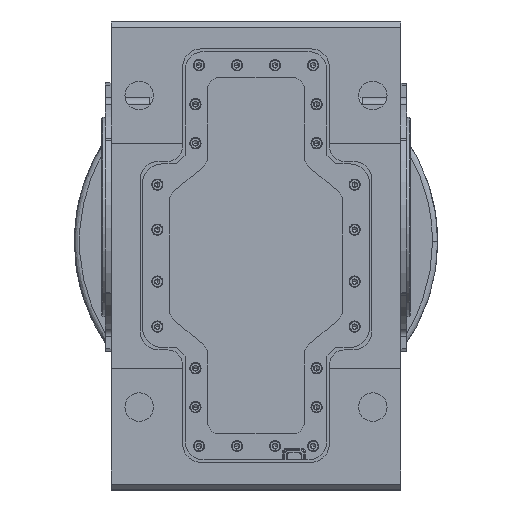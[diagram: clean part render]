
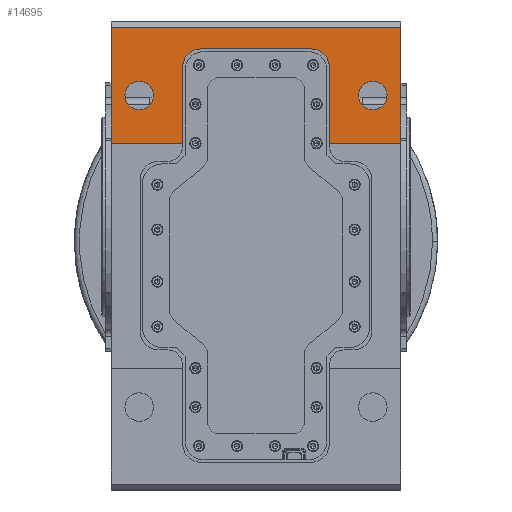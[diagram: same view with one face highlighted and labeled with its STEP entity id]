
A CAD part, top view. The second image highlights one B-rep face of the part: STEP entity #14695.
In plain terms, the highlighted planar face has unit normal (0, 0, 1).
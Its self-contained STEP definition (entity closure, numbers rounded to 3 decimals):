
#10022 = AXIS2_PLACEMENT_3D ( 'NONE', #82030, #81979, #81949 ) ;
#10215 = AXIS2_PLACEMENT_3D ( 'NONE', #117588, #117608, #117592 ) ;
#10988 = AXIS2_PLACEMENT_3D ( 'NONE', #44047, #44066, #44057 ) ;
#11014 = AXIS2_PLACEMENT_3D ( 'NONE', #44072, #44055, #44043 ) ;
#11018 = AXIS2_PLACEMENT_3D ( 'NONE', #44049, #44041, #44052 ) ;
#11148 = AXIS2_PLACEMENT_3D ( 'NONE', #43842, #43854, #43843 ) ;
#14695 = ADVANCED_FACE ( 'NONE', ( #142617, #142651, #142638 ), #36225, .T. ) ;
#33500 = EDGE_LOOP ( 'NONE', ( #56898, #56911, #56890, #56909, #56875, #56894, #56903, #56940, #56999, #56949 ) ) ;
#33522 = EDGE_LOOP ( 'NONE', ( #57001, #56960 ) ) ;
#33603 = EDGE_LOOP ( 'NONE', ( #56969, #56878 ) ) ;
#36173 = CARTESIAN_POINT ( 'NONE',  ( -167.5, 225., 200. ) ) ;
#36199 = DIRECTION ( 'NONE',  ( 0., 0., 1. ) ) ;
#36222 = DIRECTION ( 'NONE',  ( 0., -1., 0. ) ) ;
#36225 = PLANE ( 'NONE',  #56686 ) ;
#43842 = CARTESIAN_POINT ( 'NONE',  ( -63., 172., 200. ) ) ;
#43843 = DIRECTION ( 'NONE',  ( 0., -1., 0. ) ) ;
#43854 = DIRECTION ( 'NONE',  ( 0., 0., -1. ) ) ;
#43924 = CARTESIAN_POINT ( 'NONE',  ( -85., 225., 200. ) ) ;
#43933 = DIRECTION ( 'NONE',  ( 0., 1., 0. ) ) ;
#44013 = DIRECTION ( 'NONE',  ( 0., -1., 0. ) ) ;
#44016 = CARTESIAN_POINT ( 'NONE',  ( 85., 225., 200. ) ) ;
#44041 = DIRECTION ( 'NONE',  ( 0., 0., -1. ) ) ;
#44043 = DIRECTION ( 'NONE',  ( 0., -1., 0. ) ) ;
#44047 = CARTESIAN_POINT ( 'NONE',  ( -135., 140., 200. ) ) ;
#44049 = CARTESIAN_POINT ( 'NONE',  ( 135., 140., 200. ) ) ;
#44051 = CARTESIAN_POINT ( 'NONE',  ( -167.5, 194., 200. ) ) ;
#44052 = DIRECTION ( 'NONE',  ( 0., -1., 0. ) ) ;
#44055 = DIRECTION ( 'NONE',  ( 0., 0., -1. ) ) ;
#44057 = DIRECTION ( 'NONE',  ( 0., -1., 0. ) ) ;
#44058 = DIRECTION ( 'NONE',  ( 1., 0., 0. ) ) ;
#44066 = DIRECTION ( 'NONE',  ( 0., 0., -1. ) ) ;
#44072 = CARTESIAN_POINT ( 'NONE',  ( 63., 172., 200. ) ) ;
#45648 = VERTEX_POINT ( 'NONE', #95175 ) ;
#45750 = VERTEX_POINT ( 'NONE', #95312 ) ;
#45768 = VERTEX_POINT ( 'NONE', #95235 ) ;
#45781 = VERTEX_POINT ( 'NONE', #95240 ) ;
#52587 = CIRCLE ( 'NONE', #10022, 16.5 ) ;
#54261 = CIRCLE ( 'NONE', #10215, 16.5 ) ;
#56686 = AXIS2_PLACEMENT_3D ( 'NONE', #36173, #36199, #36222 ) ;
#56875 = ORIENTED_EDGE ( 'NONE', *, *, #60061, .T. ) ;
#56878 = ORIENTED_EDGE ( 'NONE', *, *, #60110, .T. ) ;
#56890 = ORIENTED_EDGE ( 'NONE', *, *, #127313, .T. ) ;
#56894 = ORIENTED_EDGE ( 'NONE', *, *, #60027, .T. ) ;
#56898 = ORIENTED_EDGE ( 'NONE', *, *, #127238, .F. ) ;
#56903 = ORIENTED_EDGE ( 'NONE', *, *, #60105, .T. ) ;
#56909 = ORIENTED_EDGE ( 'NONE', *, *, #126661, .T. ) ;
#56911 = ORIENTED_EDGE ( 'NONE', *, *, #127328, .T. ) ;
#56940 = ORIENTED_EDGE ( 'NONE', *, *, #60103, .T. ) ;
#56949 = ORIENTED_EDGE ( 'NONE', *, *, #127279, .T. ) ;
#56960 = ORIENTED_EDGE ( 'NONE', *, *, #60100, .T. ) ;
#56969 = ORIENTED_EDGE ( 'NONE', *, *, #59608, .T. ) ;
#56999 = ORIENTED_EDGE ( 'NONE', *, *, #60097, .T. ) ;
#57001 = ORIENTED_EDGE ( 'NONE', *, *, #59496, .T. ) ;
#59496 = EDGE_CURVE ( 'NONE', #45781, #45768, #52587, .T. ) ;
#59608 = EDGE_CURVE ( 'NONE', #45750, #45648, #54261, .T. ) ;
#60027 = EDGE_CURVE ( 'NONE', #136736, #136699, #138417, .T. ) ;
#60061 = EDGE_CURVE ( 'NONE', #136772, #136736, #138474, .T. ) ;
#60097 = EDGE_CURVE ( 'NONE', #136778, #136762, #138597, .T. ) ;
#60100 = EDGE_CURVE ( 'NONE', #45768, #45781, #138603, .T. ) ;
#60103 = EDGE_CURVE ( 'NONE', #136899, #136778, #138615, .T. ) ;
#60105 = EDGE_CURVE ( 'NONE', #136699, #136899, #138547, .T. ) ;
#60110 = EDGE_CURVE ( 'NONE', #45648, #45750, #138683, .T. ) ;
#81949 = DIRECTION ( 'NONE',  ( 0., -1., 0. ) ) ;
#81979 = DIRECTION ( 'NONE',  ( 0., 0., -1. ) ) ;
#81993 = VECTOR ( 'NONE', #96885, 1000. ) ;
#82030 = CARTESIAN_POINT ( 'NONE',  ( -135., 140., 200. ) ) ;
#82035 = LINE ( 'NONE', #96850, #81993 ) ;
#95175 = CARTESIAN_POINT ( 'NONE',  ( 135., 156.5, 200. ) ) ;
#95235 = CARTESIAN_POINT ( 'NONE',  ( -135., 156.5, 200. ) ) ;
#95240 = CARTESIAN_POINT ( 'NONE',  ( -135., 123.5, 200. ) ) ;
#95312 = CARTESIAN_POINT ( 'NONE',  ( 135., 123.5, 200. ) ) ;
#96850 = CARTESIAN_POINT ( 'NONE',  ( -167.5, 85., 200. ) ) ;
#96885 = DIRECTION ( 'NONE',  ( 1., 0., 0. ) ) ;
#99558 = CARTESIAN_POINT ( 'NONE',  ( 167.5, 221., 200. ) ) ;
#99607 = DIRECTION ( 'NONE',  ( 0., -1., 0. ) ) ;
#99853 = CARTESIAN_POINT ( 'NONE',  ( 97.5, 85., 200. ) ) ;
#99921 = DIRECTION ( 'NONE',  ( 1., 0., 0. ) ) ;
#99953 = DIRECTION ( 'NONE',  ( 0., -1., 0. ) ) ;
#99972 = CARTESIAN_POINT ( 'NONE',  ( -167.5, 225., 200. ) ) ;
#99998 = DIRECTION ( 'NONE',  ( -1., 0., 0. ) ) ;
#100006 = CARTESIAN_POINT ( 'NONE',  ( -167.5, 219., 200. ) ) ;
#101035 = VECTOR ( 'NONE', #99607, 1000. ) ;
#101057 = LINE ( 'NONE', #99558, #101035 ) ;
#101095 = LINE ( 'NONE', #99972, #101132 ) ;
#101096 = LINE ( 'NONE', #99853, #101104 ) ;
#101104 = VECTOR ( 'NONE', #99921, 1000. ) ;
#101132 = VECTOR ( 'NONE', #99953, 1000. ) ;
#101151 = LINE ( 'NONE', #100006, #101178 ) ;
#101178 = VECTOR ( 'NONE', #99998, 1000. ) ;
#104179 = CARTESIAN_POINT ( 'NONE',  ( 167.5, 219., 200. ) ) ;
#104277 = CARTESIAN_POINT ( 'NONE',  ( 167.5, 85., 200. ) ) ;
#104280 = CARTESIAN_POINT ( 'NONE',  ( -167.5, 219., 200. ) ) ;
#104739 = CARTESIAN_POINT ( 'NONE',  ( -63., 194., 200. ) ) ;
#104748 = CARTESIAN_POINT ( 'NONE',  ( 85., 85., 200. ) ) ;
#104786 = CARTESIAN_POINT ( 'NONE',  ( 85., 172., 200. ) ) ;
#104801 = CARTESIAN_POINT ( 'NONE',  ( -85., 172., 200. ) ) ;
#104804 = CARTESIAN_POINT ( 'NONE',  ( -85., 85., 200. ) ) ;
#104868 = CARTESIAN_POINT ( 'NONE',  ( 63., 194., 200. ) ) ;
#104871 = CARTESIAN_POINT ( 'NONE',  ( -167.5, 85., 200. ) ) ;
#117588 = CARTESIAN_POINT ( 'NONE',  ( 135., 140., 200. ) ) ;
#117592 = DIRECTION ( 'NONE',  ( 0., -1., 0. ) ) ;
#117608 = DIRECTION ( 'NONE',  ( 0., 0., -1. ) ) ;
#126661 = EDGE_CURVE ( 'NONE', #136919, #136772, #82035, .T. ) ;
#127238 = EDGE_CURVE ( 'NONE', #136204, #136254, #101057, .T. ) ;
#127279 = EDGE_CURVE ( 'NONE', #136762, #136254, #101096, .T. ) ;
#127313 = EDGE_CURVE ( 'NONE', #136243, #136919, #101095, .T. ) ;
#127328 = EDGE_CURVE ( 'NONE', #136204, #136243, #101151, .T. ) ;
#136204 = VERTEX_POINT ( 'NONE', #104179 ) ;
#136243 = VERTEX_POINT ( 'NONE', #104280 ) ;
#136254 = VERTEX_POINT ( 'NONE', #104277 ) ;
#136699 = VERTEX_POINT ( 'NONE', #104739 ) ;
#136736 = VERTEX_POINT ( 'NONE', #104801 ) ;
#136762 = VERTEX_POINT ( 'NONE', #104748 ) ;
#136772 = VERTEX_POINT ( 'NONE', #104804 ) ;
#136778 = VERTEX_POINT ( 'NONE', #104786 ) ;
#136899 = VERTEX_POINT ( 'NONE', #104868 ) ;
#136919 = VERTEX_POINT ( 'NONE', #104871 ) ;
#138417 = CIRCLE ( 'NONE', #11148, 22. ) ;
#138474 = LINE ( 'NONE', #43924, #138480 ) ;
#138480 = VECTOR ( 'NONE', #43933, 1000. ) ;
#138547 = LINE ( 'NONE', #44051, #138639 ) ;
#138597 = LINE ( 'NONE', #44016, #138601 ) ;
#138601 = VECTOR ( 'NONE', #44013, 1000. ) ;
#138603 = CIRCLE ( 'NONE', #10988, 16.5 ) ;
#138615 = CIRCLE ( 'NONE', #11014, 22. ) ;
#138639 = VECTOR ( 'NONE', #44058, 1000. ) ;
#138683 = CIRCLE ( 'NONE', #11018, 16.5 ) ;
#142617 = FACE_BOUND ( 'NONE', #33603, .T. ) ;
#142638 = FACE_OUTER_BOUND ( 'NONE', #33500, .T. ) ;
#142651 = FACE_BOUND ( 'NONE', #33522, .T. ) ;
